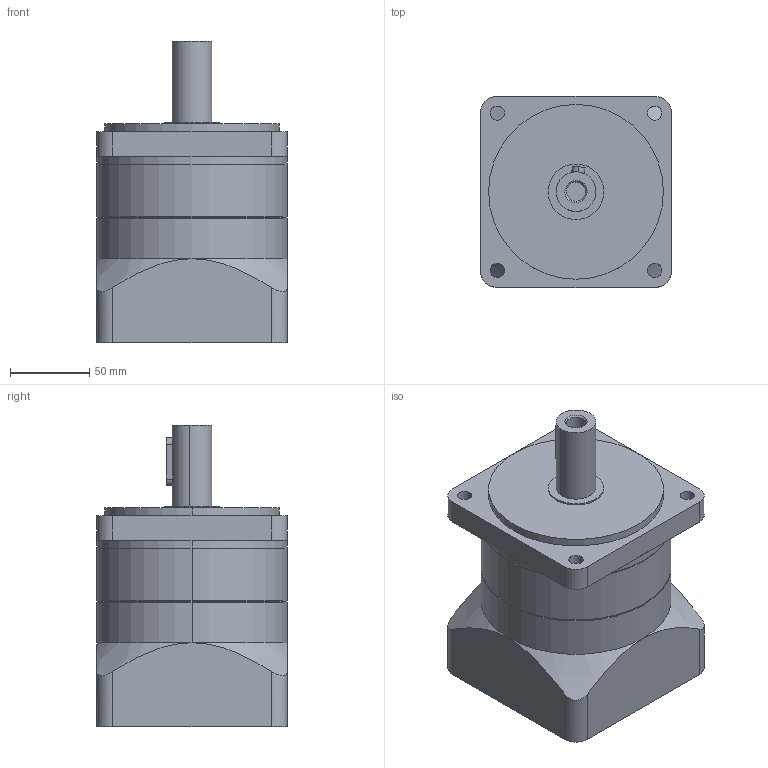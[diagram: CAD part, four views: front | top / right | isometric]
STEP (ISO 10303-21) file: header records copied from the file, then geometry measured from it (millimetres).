
FILE_DESCRIPTION (( 'STEP AP203' ), '1' );
FILE_NAME ('S120-L1.STEP', '2018-05-24T01:50:53', ( 'user' ), ( '' ), 'SwSTEP 2.0', 'SolidWorks 2014', '' );
FILE_SCHEMA (( 'CONFIG_CONTROL_DESIGN' ));
Length unit declared in the file: millimetre
Products named in the file (1): S120-L1
Bounding box: 120 x 120 x 190 mm (x, y, z)
Volume: 1439956 mm3; surface area: 172968.4 mm2
Topology: 4 solids, 4 shells, 97 faces, 211 edges, 134 vertices
Faces by surface type: cylinder 51, plane 34, cone 12
Entity records: 3090 total; most frequent: CARTESIAN_POINT 806, DIRECTION 495, ORIENTED_EDGE 422, EDGE_CURVE 211, AXIS2_PLACEMENT_3D 203, VERTEX_POINT 134, EDGE_LOOP 119, CIRCLE 105
